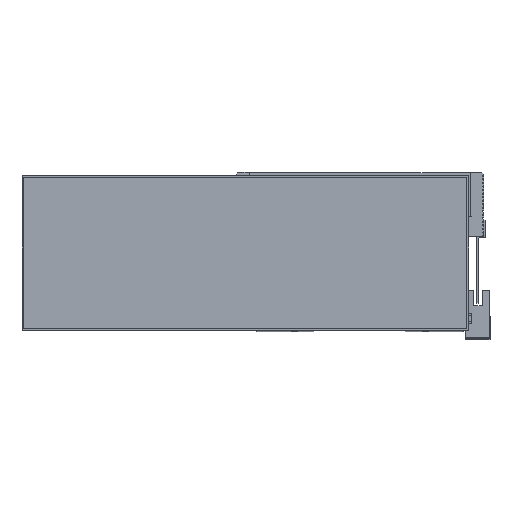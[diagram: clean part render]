
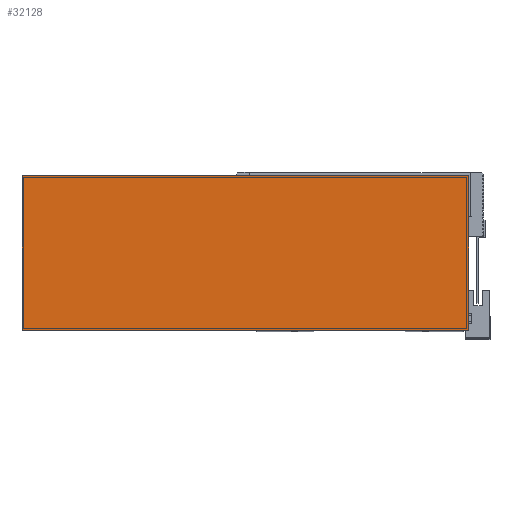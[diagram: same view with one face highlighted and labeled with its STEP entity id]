
A CAD part, top view. The second image highlights one B-rep face of the part: STEP entity #32128.
In plain terms, the highlighted planar face has unit normal (0, 0, 1) as drawn and (0, 0, -1) by its records, which use the part's own axes.
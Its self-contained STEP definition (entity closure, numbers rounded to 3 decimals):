
#4967 = DIRECTION ( 'NONE',  ( 1., 0., 0. ) ) ;
#8579 = CARTESIAN_POINT ( 'NONE',  ( 126.25, 43.75, -1. ) ) ;
#13639 = VERTEX_POINT ( 'NONE', #30254 ) ;
#15590 = DIRECTION ( 'NONE',  ( 1., 0., 0. ) ) ;
#30254 = CARTESIAN_POINT ( 'NONE',  ( -126.25, 43.75, -1. ) ) ;
#32128 = ADVANCED_FACE ( 'NONE', ( #37612 ), #111362, .F. ) ;
#35890 = VERTEX_POINT ( 'NONE', #83046 ) ;
#36582 = DIRECTION ( 'NONE',  ( 0., 1., 0. ) ) ;
#36698 = ORIENTED_EDGE ( 'NONE', *, *, #36792, .T. ) ;
#36792 = EDGE_CURVE ( 'NONE', #13639, #57222, #126231, .T. ) ;
#37612 = FACE_OUTER_BOUND ( 'NONE', #70465, .T. ) ;
#44006 = LINE ( 'NONE', #90203, #126702 ) ;
#47561 = CARTESIAN_POINT ( 'NONE',  ( -126.25, 43.75, -1. ) ) ;
#47571 = LINE ( 'NONE', #64636, #101430 ) ;
#47802 = CARTESIAN_POINT ( 'NONE',  ( 0., 0., -1. ) ) ;
#52922 = CARTESIAN_POINT ( 'NONE',  ( -126.25, -43.75, -1. ) ) ;
#53886 = DIRECTION ( 'NONE',  ( 0., -1., 0. ) ) ;
#57222 = VERTEX_POINT ( 'NONE', #8579 ) ;
#58141 = ORIENTED_EDGE ( 'NONE', *, *, #66736, .T. ) ;
#64636 = CARTESIAN_POINT ( 'NONE',  ( 126.25, 43.75, -1. ) ) ;
#66736 = EDGE_CURVE ( 'NONE', #35890, #13639, #44006, .T. ) ;
#67177 = VERTEX_POINT ( 'NONE', #76948 ) ;
#69407 = DIRECTION ( 'NONE',  ( 0., 0., 1. ) ) ;
#70465 = EDGE_LOOP ( 'NONE', ( #58141, #36698, #79220, #76813 ) ) ;
#76813 = ORIENTED_EDGE ( 'NONE', *, *, #138437, .T. ) ;
#76948 = CARTESIAN_POINT ( 'NONE',  ( 126.25, -43.75, -1. ) ) ;
#79220 = ORIENTED_EDGE ( 'NONE', *, *, #99725, .T. ) ;
#83046 = CARTESIAN_POINT ( 'NONE',  ( -126.25, -43.75, -1. ) ) ;
#85341 = DIRECTION ( 'NONE',  ( -1., 0., 0. ) ) ;
#90203 = CARTESIAN_POINT ( 'NONE',  ( -126.25, 43.75, -1. ) ) ;
#97384 = VECTOR ( 'NONE', #15590, 1000. ) ;
#99725 = EDGE_CURVE ( 'NONE', #57222, #67177, #47571, .T. ) ;
#101430 = VECTOR ( 'NONE', #53886, 1000. ) ;
#106042 = VECTOR ( 'NONE', #85341, 1000. ) ;
#111362 = PLANE ( 'NONE',  #114878 ) ;
#114878 = AXIS2_PLACEMENT_3D ( 'NONE', #47802, #69407, #4967 ) ;
#126231 = LINE ( 'NONE', #47561, #97384 ) ;
#126702 = VECTOR ( 'NONE', #36582, 1000. ) ;
#131534 = LINE ( 'NONE', #52922, #106042 ) ;
#138437 = EDGE_CURVE ( 'NONE', #67177, #35890, #131534, .T. ) ;
